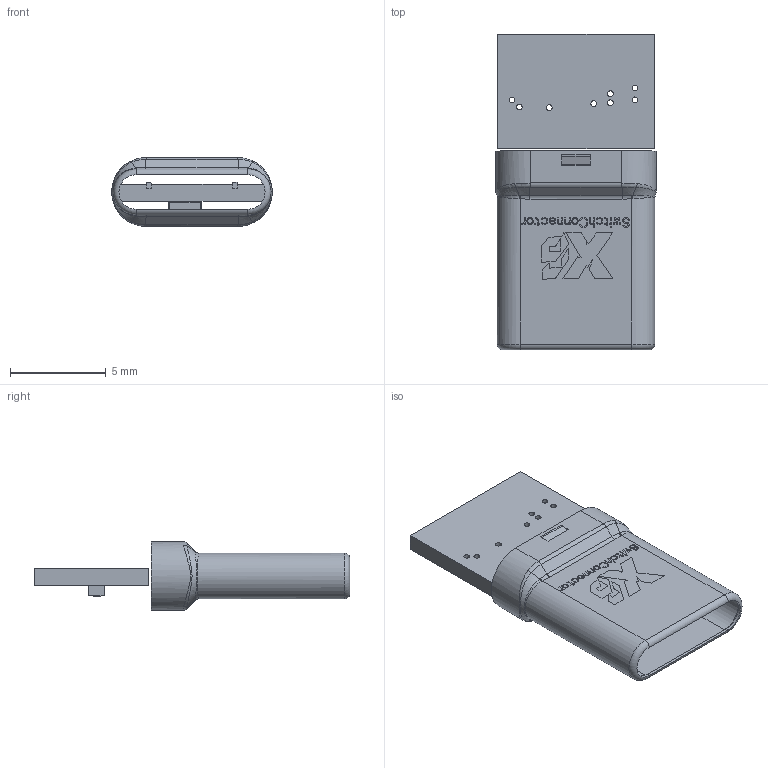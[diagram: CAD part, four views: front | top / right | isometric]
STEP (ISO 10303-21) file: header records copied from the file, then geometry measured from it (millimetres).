
FILE_DESCRIPTION(('PCB Model'),'2;1');
FILE_NAME('D:\Design\Evelta\Adapter Boards\USB\USB type c Male adapter\MCAD\10113.STEP','2026-03-26T17:19:01',('Pritesh'),( 'Unspecified'),'Open CASCADE STEP processor 7.6','Proteus','Unknown' );
FILE_SCHEMA(('AUTOMOTIVE_DESIGN { 1 0 10303 214 1 1 1 1 }'));
Length unit declared in the file: millimetre
Products named in the file (37): Proteus PCB Model; Board; J1; Package; Body_1; COMPOUND; =>[0:1:1:4]; =>[0:1:1:5]; =>[0:1:1:6]; =>[0:1:1:7]; =>[0:1:1:8]; =>[0:1:1:9]; =>[0:1:1:10]; =>[0:1:1:11]; =>[0:1:1:12]; =>[0:1:1:13]; =>[0:1:1:14]; =>[0:1:1:15]; =>[0:1:1:16]; =>[0:1:1:17]; =>[0:1:1:18]; =>[0:1:1:19]; =>[0:1:1:20]; =>[0:1:1:21]; =>[0:1:1:22]; =>[0:1:1:23]; =>[0:1:1:24]; SHELL; R1; =>[0:1:1:3]
Assembly tree (36 placements, depth 6):
  Proteus PCB Model
    Board
    J1
      Package
        Body_1
          COMPOUND
            =>[0:1:1:4]
            =>[0:1:1:5]
            =>[0:1:1:6]
            =>[0:1:1:7]
            =>[0:1:1:8]
            =>[0:1:1:9]
            =>[0:1:1:10]
            =>[0:1:1:11]
            =>[0:1:1:12]
            =>[0:1:1:13]
            =>[0:1:1:14]
            =>[0:1:1:15]
            =>[0:1:1:16]
            =>[0:1:1:17]
            =>[0:1:1:18]
            =>[0:1:1:19]
            =>[0:1:1:20]
            =>[0:1:1:21]
            =>[0:1:1:22]
            =>[0:1:1:23]
            =>[0:1:1:24]
          COMPOUND
            SHELL
            SHELL
    R1
      Package
        Body_1
          =>[0:1:1:3]
          =>[0:1:1:4]
          =>[0:1:1:5]
          =>[0:1:1:6]
Bounding box: 8.4 x 16.51 x 3.6 mm (x, y, z)
Volume: 44.7 mm3; surface area: 570.9 mm2
Topology: 26 solids, 27 shells, 774 faces, 2057 edges, 1342 vertices
Faces by surface type: plane 643, bspline 85, cylinder 42, torus 4
Full cylindrical faces by diameter (mm): 0.3 x8
Entity records: 121904 total; most frequent: CARTESIAN_POINT 31892, ORIENTED_EDGE 19399, DIRECTION 16765, EDGE_CURVE 9766, LINE 8029, VECTOR 8029, VERTEX_POINT 6245, AXIS2_PLACEMENT_3D 4368
